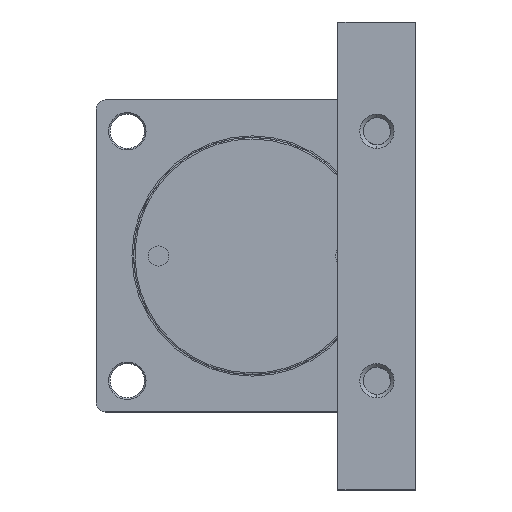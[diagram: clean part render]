
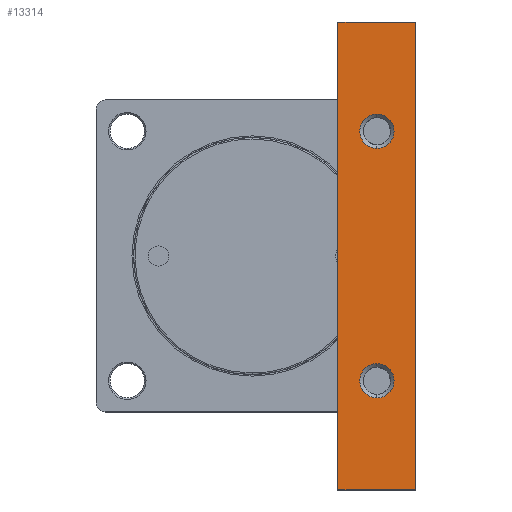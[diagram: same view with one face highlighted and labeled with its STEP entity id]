
A CAD part, left-side view. The second image highlights one B-rep face of the part: STEP entity #13314.
In plain terms, the highlighted planar face has unit normal (1, 0, 0).
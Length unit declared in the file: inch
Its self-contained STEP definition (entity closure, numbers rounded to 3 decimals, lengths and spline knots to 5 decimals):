
#125 = DIRECTION ( 'NONE',  ( 0., -1., 0. ) ) ;
#263 = VERTEX_POINT ( 'NONE', #3512 ) ;
#514 = LINE ( 'NONE', #914, #12543 ) ;
#631 = AXIS2_PLACEMENT_3D ( 'NONE', #9941, #10345, #10636 ) ;
#710 = EDGE_CURVE ( 'NONE', #11720, #1776, #11900, .T. ) ;
#738 = VERTEX_POINT ( 'NONE', #13071 ) ;
#818 = ORIENTED_EDGE ( 'NONE', *, *, #14660, .T. ) ;
#898 = DIRECTION ( 'NONE',  ( 0., 0., -1. ) ) ;
#914 = CARTESIAN_POINT ( 'NONE',  ( -3.3622, -4.13386, 5.90551 ) ) ;
#1502 = AXIS2_PLACEMENT_3D ( 'NONE', #9568, #9555, #9541 ) ;
#1687 = CARTESIAN_POINT ( 'NONE',  ( -3.3622, -3.14961, -2.71654 ) ) ;
#1771 = CARTESIAN_POINT ( 'NONE',  ( -3.3622, -2.16535, -5.90551 ) ) ;
#1776 = VERTEX_POINT ( 'NONE', #6816 ) ;
#1986 = DIRECTION ( 'NONE',  ( 0., 0., 1. ) ) ;
#2103 = ORIENTED_EDGE ( 'NONE', *, *, #12029, .T. ) ;
#2192 = EDGE_CURVE ( 'NONE', #8500, #12195, #514, .T. ) ;
#2206 = EDGE_LOOP ( 'NONE', ( #8513, #2103, #15249, #11121 ) ) ;
#3184 = CARTESIAN_POINT ( 'NONE',  ( -3.3622, -4.13386, 5.90551 ) ) ;
#3308 = VECTOR ( 'NONE', #11477, 39.37008 ) ;
#3512 = CARTESIAN_POINT ( 'NONE',  ( -3.3622, -3.14961, 2.71654 ) ) ;
#3698 = DIRECTION ( 'NONE',  ( -1., 0., 0. ) ) ;
#4832 = VECTOR ( 'NONE', #125, 39.37008 ) ;
#4936 = FACE_OUTER_BOUND ( 'NONE', #2206, .T. ) ;
#4964 = CIRCLE ( 'NONE', #1502, 0.43307 ) ;
#5327 = CARTESIAN_POINT ( 'NONE',  ( -3.3622, -4.13386, 5.90551 ) ) ;
#5796 = VECTOR ( 'NONE', #13331, 39.37008 ) ;
#6231 = CARTESIAN_POINT ( 'NONE',  ( -3.3622, -3.14961, -3.58268 ) ) ;
#6660 = CIRCLE ( 'NONE', #14951, 0.43307 ) ;
#6816 = CARTESIAN_POINT ( 'NONE',  ( -3.3622, -2.16535, 5.90551 ) ) ;
#6959 = DIRECTION ( 'NONE',  ( 0., 0., -1. ) ) ;
#6961 = DIRECTION ( 'NONE',  ( 1., 0., 0. ) ) ;
#7092 = CARTESIAN_POINT ( 'NONE',  ( -3.3622, -4.13386, 5.90551 ) ) ;
#7401 = PLANE ( 'NONE',  #9663 ) ;
#7585 = FACE_BOUND ( 'NONE', #8150, .T. ) ;
#8132 = EDGE_LOOP ( 'NONE', ( #818, #14436 ) ) ;
#8150 = EDGE_LOOP ( 'NONE', ( #9363, #9111 ) ) ;
#8500 = VERTEX_POINT ( 'NONE', #3184 ) ;
#8513 = ORIENTED_EDGE ( 'NONE', *, *, #710, .T. ) ;
#8884 = VERTEX_POINT ( 'NONE', #6231 ) ;
#9111 = ORIENTED_EDGE ( 'NONE', *, *, #12199, .T. ) ;
#9136 = LINE ( 'NONE', #5327, #4832 ) ;
#9363 = ORIENTED_EDGE ( 'NONE', *, *, #9718, .T. ) ;
#9526 = CIRCLE ( 'NONE', #14248, 0.43307 ) ;
#9541 = DIRECTION ( 'NONE',  ( 0., 0., 1. ) ) ;
#9555 = DIRECTION ( 'NONE',  ( -1., 0., 0. ) ) ;
#9568 = CARTESIAN_POINT ( 'NONE',  ( -3.3622, -3.14961, 3.14961 ) ) ;
#9663 = AXIS2_PLACEMENT_3D ( 'NONE', #7092, #6961, #6959 ) ;
#9718 = EDGE_CURVE ( 'NONE', #738, #263, #4964, .T. ) ;
#9941 = CARTESIAN_POINT ( 'NONE',  ( -3.3622, -3.14961, -3.14961 ) ) ;
#10345 = DIRECTION ( 'NONE',  ( -1., 0., 0. ) ) ;
#10636 = DIRECTION ( 'NONE',  ( 0., 0., 1. ) ) ;
#11121 = ORIENTED_EDGE ( 'NONE', *, *, #12368, .T. ) ;
#11477 = DIRECTION ( 'NONE',  ( 0., 0., 1. ) ) ;
#11607 = CARTESIAN_POINT ( 'NONE',  ( -3.3622, -2.16535, 5.90551 ) ) ;
#11720 = VERTEX_POINT ( 'NONE', #1771 ) ;
#11900 = LINE ( 'NONE', #11607, #3308 ) ;
#11979 = EDGE_CURVE ( 'NONE', #8884, #14068, #9526, .T. ) ;
#12029 = EDGE_CURVE ( 'NONE', #1776, #8500, #9136, .T. ) ;
#12195 = VERTEX_POINT ( 'NONE', #14529 ) ;
#12199 = EDGE_CURVE ( 'NONE', #263, #738, #6660, .T. ) ;
#12368 = EDGE_CURVE ( 'NONE', #12195, #11720, #15145, .T. ) ;
#12424 = CARTESIAN_POINT ( 'NONE',  ( -3.3622, -3.14961, -3.14961 ) ) ;
#12543 = VECTOR ( 'NONE', #898, 39.37008 ) ;
#12706 = CIRCLE ( 'NONE', #631, 0.43307 ) ;
#13071 = CARTESIAN_POINT ( 'NONE',  ( -3.3622, -3.14961, 3.58268 ) ) ;
#13314 = ADVANCED_FACE ( 'NONE', ( #4936, #7585, #14629 ), #7401, .T. ) ;
#13331 = DIRECTION ( 'NONE',  ( 0., 1., 0. ) ) ;
#13439 = CARTESIAN_POINT ( 'NONE',  ( -3.3622, -4.13386, -5.90551 ) ) ;
#14068 = VERTEX_POINT ( 'NONE', #1687 ) ;
#14248 = AXIS2_PLACEMENT_3D ( 'NONE', #12424, #3698, #1986 ) ;
#14436 = ORIENTED_EDGE ( 'NONE', *, *, #11979, .T. ) ;
#14439 = DIRECTION ( 'NONE',  ( 0., 0., 1. ) ) ;
#14455 = DIRECTION ( 'NONE',  ( -1., 0., 0. ) ) ;
#14475 = CARTESIAN_POINT ( 'NONE',  ( -3.3622, -3.14961, 3.14961 ) ) ;
#14529 = CARTESIAN_POINT ( 'NONE',  ( -3.3622, -4.13386, -5.90551 ) ) ;
#14629 = FACE_BOUND ( 'NONE', #8132, .T. ) ;
#14660 = EDGE_CURVE ( 'NONE', #14068, #8884, #12706, .T. ) ;
#14951 = AXIS2_PLACEMENT_3D ( 'NONE', #14475, #14455, #14439 ) ;
#15145 = LINE ( 'NONE', #13439, #5796 ) ;
#15249 = ORIENTED_EDGE ( 'NONE', *, *, #2192, .T. ) ;
